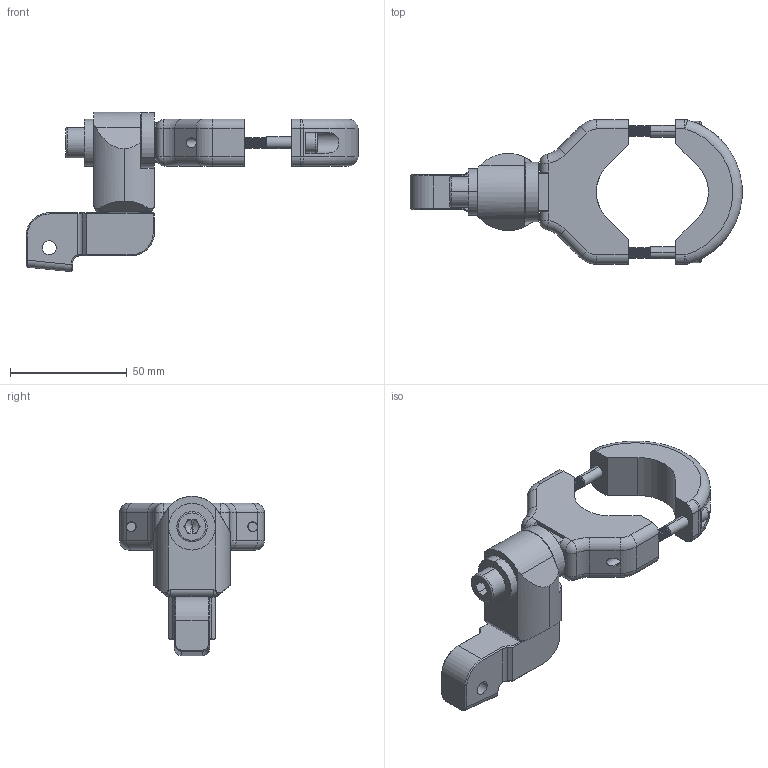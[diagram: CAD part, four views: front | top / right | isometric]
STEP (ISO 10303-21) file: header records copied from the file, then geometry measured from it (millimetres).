
FILE_DESCRIPTION((''),'2;1');
FILE_NAME('6158122150_ASM','2016-11-17T',('greextsd'),(''),'CREO PARAMETRIC BY PTC INC, 2016130','CREO PARAMETRIC BY PTC INC, 2016130','');
FILE_SCHEMA(('AUTOMOTIVE_DESIGN { 1 0 10303 214 1 1 1 1 }'));
Length unit declared in the file: millimetre
Products named in the file (10): 6158121680; 6158121690; 6158121700; 6158121670; 6158121630; 6158121650; 6158121660; 6158122160; 6158121640; 6158122150_ASM
Assembly tree (10 placements, depth 2):
  6158122150_ASM
    6158121680
    6158121690
    6158121700  x2
    6158121670
    6158121630
    6158121650
    6158121660
    6158122160
    6158121640
Bounding box: 142.24 x 62 x 68.25 mm (x, y, z)
Volume: 98988.3 mm3; surface area: 34894.8 mm2
Topology: 10 solids, 10 shells, 1116 faces, 2707 edges, 1599 vertices
Faces by surface type: cone 634, cylinder 254, plane 182, torus 28, sphere 12, bspline 6
Entity records: 38929 total; most frequent: CARTESIAN_POINT 5489, DIRECTION 5357, ORIENTED_EDGE 4662, EDGE_CURVE 2331, AXIS2_PLACEMENT_3D 2141, PRESENTATION_STYLE_ASSIGNMENT 1931, STYLED_ITEM 1867, CURVE_STYLE 1667
